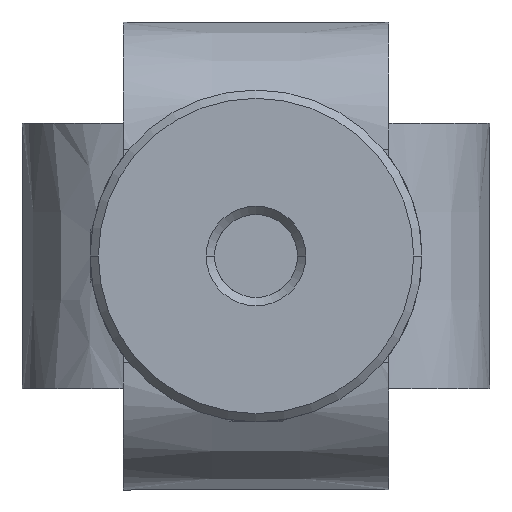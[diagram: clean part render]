
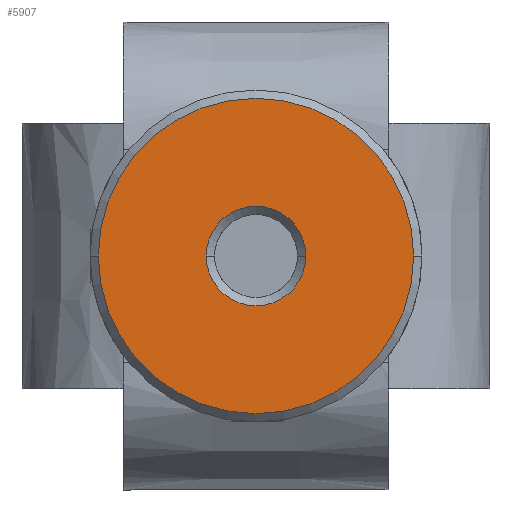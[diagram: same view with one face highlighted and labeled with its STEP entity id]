
A CAD part, front view. The second image highlights one B-rep face of the part: STEP entity #5907.
In plain terms, the highlighted planar face has unit normal (0, -1, 0).
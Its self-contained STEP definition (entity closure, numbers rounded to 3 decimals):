
#82 = ORIENTED_EDGE ( 'NONE', *, *, #2675, .T. ) ;
#422 = CARTESIAN_POINT ( 'NONE',  ( 0., -35.24, 0. ) ) ;
#687 = EDGE_CURVE ( 'NONE', #7615, #858, #4461, .T. ) ;
#858 = VERTEX_POINT ( 'NONE', #2236 ) ;
#1011 = EDGE_CURVE ( 'NONE', #6500, #3643, #5489, .T. ) ;
#1184 = DIRECTION ( 'NONE',  ( -1., 0., 0. ) ) ;
#1283 = DIRECTION ( 'NONE',  ( 0., 1., 0. ) ) ;
#1790 = CARTESIAN_POINT ( 'NONE',  ( 0., -35.24, 0. ) ) ;
#1948 = CIRCLE ( 'NONE', #6579, 3. ) ;
#2236 = CARTESIAN_POINT ( 'NONE',  ( 3., -35.24, 0. ) ) ;
#2391 = DIRECTION ( 'NONE',  ( -1., 0., 0. ) ) ;
#2675 = EDGE_CURVE ( 'NONE', #858, #7615, #1948, .T. ) ;
#3211 = DIRECTION ( 'NONE',  ( 0., -1., 0. ) ) ;
#3321 = DIRECTION ( 'NONE',  ( -1., 0., 0. ) ) ;
#3403 = DIRECTION ( 'NONE',  ( -1., 0., 0. ) ) ;
#3544 = AXIS2_PLACEMENT_3D ( 'NONE', #4874, #1283, #1184 ) ;
#3643 = VERTEX_POINT ( 'NONE', #4372 ) ;
#3845 = ORIENTED_EDGE ( 'NONE', *, *, #687, .T. ) ;
#4372 = CARTESIAN_POINT ( 'NONE',  ( -9.5, -35.24, 0. ) ) ;
#4461 = CIRCLE ( 'NONE', #3544, 3. ) ;
#4609 = EDGE_LOOP ( 'NONE', ( #6811, #5147 ) ) ;
#4640 = DIRECTION ( 'NONE',  ( 0., 1., 0. ) ) ;
#4785 = CARTESIAN_POINT ( 'NONE',  ( -3., -35.24, 0. ) ) ;
#4874 = CARTESIAN_POINT ( 'NONE',  ( 0., -35.24, 0. ) ) ;
#5092 = PLANE ( 'NONE',  #6455 ) ;
#5119 = DIRECTION ( 'NONE',  ( 0., -1., 0. ) ) ;
#5147 = ORIENTED_EDGE ( 'NONE', *, *, #6885, .T. ) ;
#5171 = CARTESIAN_POINT ( 'NONE',  ( 0., -35.24, 0. ) ) ;
#5399 = FACE_OUTER_BOUND ( 'NONE', #4609, .T. ) ;
#5489 = CIRCLE ( 'NONE', #6602, 9.5 ) ;
#5590 = DIRECTION ( 'NONE',  ( -1., 0., 0. ) ) ;
#5907 = ADVANCED_FACE ( 'NONE', ( #6620, #5399 ), #5092, .T. ) ;
#5951 = DIRECTION ( 'NONE',  ( 0., -1., 0. ) ) ;
#6239 = CIRCLE ( 'NONE', #6368, 9.5 ) ;
#6259 = CARTESIAN_POINT ( 'NONE',  ( 9.5, -35.24, 0. ) ) ;
#6352 = EDGE_LOOP ( 'NONE', ( #3845, #82 ) ) ;
#6368 = AXIS2_PLACEMENT_3D ( 'NONE', #1790, #5951, #2391 ) ;
#6455 = AXIS2_PLACEMENT_3D ( 'NONE', #5171, #5119, #3403 ) ;
#6500 = VERTEX_POINT ( 'NONE', #6259 ) ;
#6579 = AXIS2_PLACEMENT_3D ( 'NONE', #422, #4640, #3321 ) ;
#6602 = AXIS2_PLACEMENT_3D ( 'NONE', #6663, #3211, #5590 ) ;
#6620 = FACE_BOUND ( 'NONE', #6352, .T. ) ;
#6663 = CARTESIAN_POINT ( 'NONE',  ( 0., -35.24, 0. ) ) ;
#6811 = ORIENTED_EDGE ( 'NONE', *, *, #1011, .T. ) ;
#6885 = EDGE_CURVE ( 'NONE', #3643, #6500, #6239, .T. ) ;
#7615 = VERTEX_POINT ( 'NONE', #4785 ) ;
